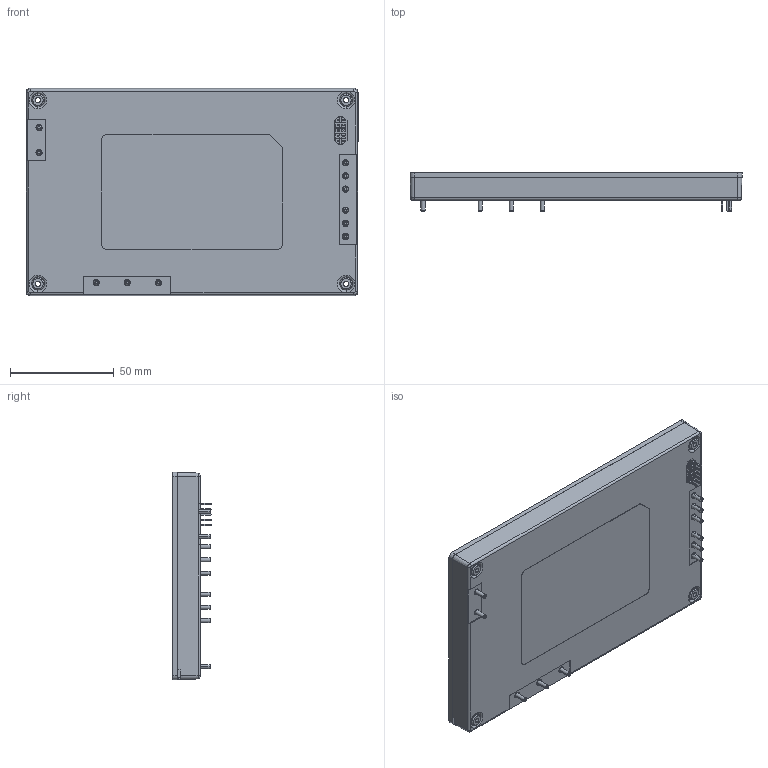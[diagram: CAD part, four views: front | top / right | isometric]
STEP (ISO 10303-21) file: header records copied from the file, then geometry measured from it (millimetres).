
FILE_DESCRIPTION (( 'STEP AP214' ), '1' );
FILE_NAME ('pfe1000fa_outline.STEP', '2016-03-30T01:26:40', ( 'tluser' ), ( '' ), 'SwSTEP 2.0', 'SolidWorks 2013', '' );
FILE_SCHEMA (( 'AUTOMOTIVE_DESIGN' ));
Length unit declared in the file: millimetre
Products named in the file (1): pfe1000fa_outline
Bounding box: 160 x 18.55 x 100 mm (x, y, z)
Volume: 207198.2 mm3; surface area: 39813.9 mm2
Topology: 1 solids, 1 shells, 369 faces, 871 edges, 552 vertices
Faces by surface type: plane 224, cylinder 91, torus 34, cone 20
Entity records: 14658 total; most frequent: DIRECTION 1879, CARTESIAN_POINT 1817, ORIENTED_EDGE 1742, EDGE_CURVE 871, AXIS2_PLACEMENT_3D 646, LINE 587, VECTOR 587, VERTEX_POINT 552
